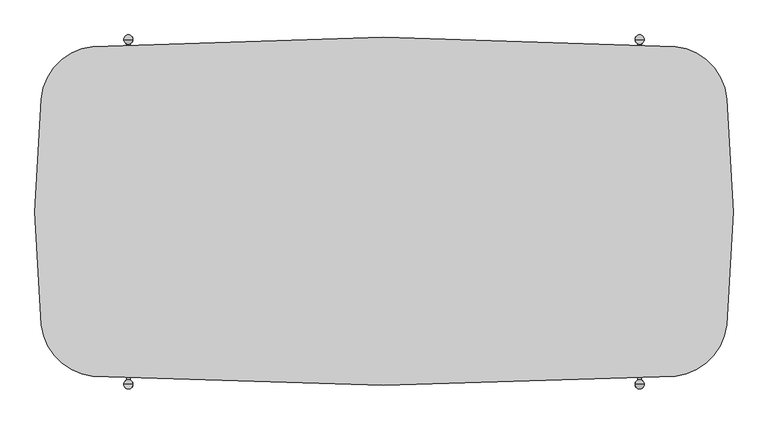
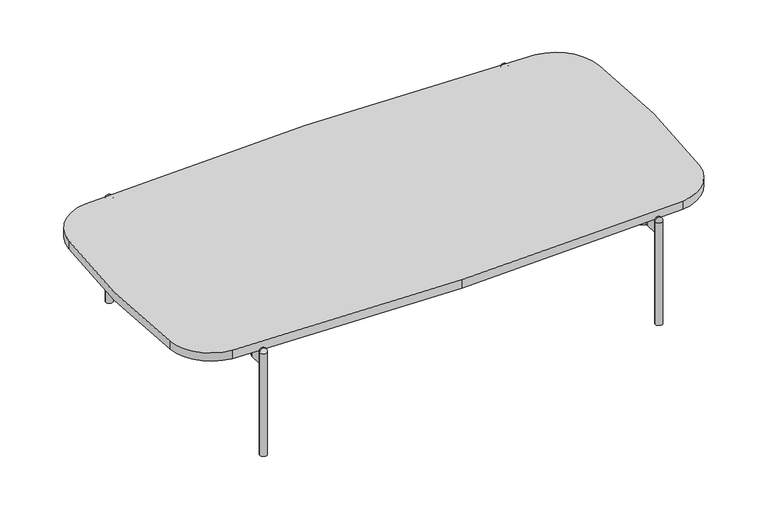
"""IFC4 building model written with IfcOpenShell, lengths in millimetres: furniture geometry, RECTANGULAR TABLE_H=25 : EI125B051260A_M."""

import ifcopenshell
import ifcopenshell.guid

model = None  # the IFC model being written
_history = None  # IfcOwnerHistory: only IFC2X3 demands one
_inside = {}  # id of a spatial element -> (the spatial element, [elements in it])
_under = {}  # id of a project, library or spatial element -> (it, [spatial elements below it])
_declared = {}  # id of a project -> (the project, [libraries it declares])
_typed = {}  # id of a type object -> (the type object, [elements of that type])
_made_of = {}  # id of a material, layer set ... -> (it, [elements and type objects made of it])


def new_model(schema):
    """Start an empty IFC model of exactly this schema.

    Asked for "IFC4X3", IfcOpenShell would pick the latest addendum, in which some entities
    have other attributes; the version numbers below select the first issue.
    IFC2X3 requires an IfcOwnerHistory on every rooted entity: one is made here for all.
    """
    global model, _history
    if schema == "IFC4X3":
        model = ifcopenshell.file(schema_version=(4, 3, 0, 0))
    else:
        model = ifcopenshell.file(schema=schema)
    _inside.clear()
    _under.clear()
    _declared.clear()
    _typed.clear()
    _made_of.clear()
    _history = None
    if model.schema == "IFC2X3":
        org = make("IfcOrganization", Name="unknown")
        user = make(
            "IfcPersonAndOrganization",
            ThePerson=make("IfcPerson", FamilyName="unknown"),
            TheOrganization=org,
        )
        app = make(
            "IfcApplication",
            ApplicationDeveloper=org,
            Version="unknown",
            ApplicationFullName="unknown",
            ApplicationIdentifier="unknown",
        )
        _history = make(
            "IfcOwnerHistory",
            OwningUser=user,
            OwningApplication=app,
            ChangeAction="ADDED",
            CreationDate=0,
        )
    return model


def make(cls, **values):
    """One entity of the class cls with the attributes given. An attribute that is None is left unset."""
    return model.create_entity(
        cls, **{name: value for name, value in values.items() if value is not None}
    )


def rooted(cls, **values):
    """An entity with a GlobalId (a new one), such as an element, a storey or a relation."""
    return make(cls, GlobalId=ifcopenshell.guid.new(), OwnerHistory=_history, **values)


def si_unit(unit_type, name, prefix=None):
    """IfcSIUnit, for example si_unit("LENGTHUNIT", "METRE", prefix="MILLI")."""
    return make("IfcSIUnit", UnitType=unit_type, Prefix=prefix, Name=name)


def assignment(units):
    """IfcUnitAssignment: the units of a project."""
    return None if units is None else make("IfcUnitAssignment", Units=units)


def point(xyz):
    """IfcCartesianPoint."""
    return None if xyz is None else make("IfcCartesianPoint", Coordinates=xyz)


def direction(xyz):
    """IfcDirection."""
    return None if xyz is None else make("IfcDirection", DirectionRatios=xyz)


def frame(location, z_axis=None, x_axis=None):
    """IfcAxis2Placement3D, a coordinate frame: its origin and axes. An axis left out is left unset."""
    return make(
        "IfcAxis2Placement3D",
        Location=point(location),
        Axis=direction(z_axis),
        RefDirection=direction(x_axis),
    )


def frame_2d(location, x_axis=None):
    """IfcAxis2Placement2D, a coordinate frame in the plane: its origin and x axis."""
    return make(
        "IfcAxis2Placement2D", Location=point(location), RefDirection=direction(x_axis)
    )


def origin():
    """The frame at (0, 0, 0) with its axes left unset."""
    return frame((0.0, 0.0, 0.0))


def origin_with_axes():
    """The frame at (0, 0, 0) with the z axis (0, 0, 1) and the x axis (1, 0, 0) written out."""
    return frame((0.0, 0.0, 0.0), z_axis=(0.0, 0.0, 1.0), x_axis=(1.0, 0.0, 0.0))


def origin_2d():
    """The frame at (0, 0) in the plane with its x axis left unset."""
    return frame_2d((0.0, 0.0))


def place(relative_to, where):
    """IfcLocalPlacement: puts the frame where relative to a parent placement (None: the world)."""
    return make(
        "IfcLocalPlacement", PlacementRelTo=relative_to, RelativePlacement=where
    )


def context(
    kind, dimensions, precision=None, world=None, true_north=None, identifier=None
):
    """IfcGeometricRepresentationContext, for example the 3D "Model" context."""
    return make(
        "IfcGeometricRepresentationContext",
        ContextIdentifier=identifier,
        ContextType=kind,
        CoordinateSpaceDimension=dimensions,
        Precision=precision,
        WorldCoordinateSystem=world,
        TrueNorth=true_north,
    )


def project(units=None, contexts=None):
    """IfcProject with its units and contexts."""
    return rooted(
        "IfcProject",
        Name="project",
        RepresentationContexts=contexts,
        UnitsInContext=assignment(units),
    )


def spatial(cls, under=None, at=None, **own):
    """A site, building, storey or space (cls), placed at a placement, below another one or the project."""
    s = rooted(cls, ObjectPlacement=at, **own)
    if under is not None:
        _under.setdefault(under.id(), (under, []))[1].append(s)
    return s


def polyline(points):
    """IfcPolyline through the points."""
    return make("IfcPolyline", Points=[point(p) for p in points])


def circle_curve(where, radius):
    """IfcCircle in the frame where."""
    return make("IfcCircle", Position=where, Radius=radius)


def ellipse_curve(where, semi_axis1, semi_axis2):
    """IfcEllipse in the frame where."""
    return make(
        "IfcEllipse", Position=where, SemiAxis1=semi_axis1, SemiAxis2=semi_axis2
    )


def trimmed(basis, trim1, trim2, sense, master):
    """IfcTrimmedCurve: the piece of a basis curve between two trims."""
    return make(
        "IfcTrimmedCurve",
        BasisCurve=basis,
        Trim1=trim1,
        Trim2=trim2,
        SenseAgreement=sense,
        MasterRepresentation=master,
    )


def segment(curve, same_sense, transition):
    """IfcCompositeCurveSegment."""
    return make(
        "IfcCompositeCurveSegment",
        Transition=transition,
        SameSense=same_sense,
        ParentCurve=curve,
    )


def composite_curve(segments, self_intersect=None):
    """IfcCompositeCurve: segments joined end to end."""
    return make("IfcCompositeCurve", Segments=segments, SelfIntersect=self_intersect)


def outline(outer, holes=None, kind="AREA"):
    """IfcArbitraryClosedProfileDef: a profile drawn as a closed curve; with holes, ...WithVoids."""
    if holes is None:
        return make("IfcArbitraryClosedProfileDef", ProfileType=kind, OuterCurve=outer)
    return make(
        "IfcArbitraryProfileDefWithVoids",
        ProfileType=kind,
        OuterCurve=outer,
        InnerCurves=holes,
    )


def extrude(swept, where, along, depth):
    """IfcExtrudedAreaSolid: the profile swept, set in the frame where, extruded along a direction by depth."""
    return make(
        "IfcExtrudedAreaSolid",
        SweptArea=swept,
        Position=where,
        ExtrudedDirection=direction(along),
        Depth=depth,
    )


def shape(context_of_items, identifier, shape_type, items):
    """IfcShapeRepresentation: the items that make up one representation, for example the "Body"."""
    return make(
        "IfcShapeRepresentation",
        ContextOfItems=context_of_items,
        RepresentationIdentifier=identifier,
        RepresentationType=shape_type,
        Items=items,
    )


def source(mapping_origin, context_of_items, identifier, shape_type, items):
    """IfcRepresentationMap: a shape defined once, which mapped items show again and again."""
    return make(
        "IfcRepresentationMap",
        MappingOrigin=mapping_origin,
        MappedRepresentation=shape(context_of_items, identifier, shape_type, items),
    )


def transform(
    local_origin,
    x_axis=None,
    y_axis=None,
    z_axis=None,
    scale=None,
    scale2=None,
    scale3=None,
    uniform=True,
):
    """IfcCartesianTransformationOperator3D, or its non-uniform kind. x_axis, y_axis, z_axis: its Axis1, 2, 3."""
    if uniform:
        return make(
            "IfcCartesianTransformationOperator3D",
            Axis1=direction(x_axis),
            Axis2=direction(y_axis),
            LocalOrigin=point(local_origin),
            Scale=scale,
            Axis3=direction(z_axis),
        )
    return make(
        "IfcCartesianTransformationOperator3DnonUniform",
        Axis1=direction(x_axis),
        Axis2=direction(y_axis),
        LocalOrigin=point(local_origin),
        Scale=scale,
        Axis3=direction(z_axis),
        Scale2=scale2,
        Scale3=scale3,
    )


def mapped(mapping_source, mapping_target):
    """IfcMappedItem: shows the shape of a source again, moved by a transform."""
    return make(
        "IfcMappedItem", MappingSource=mapping_source, MappingTarget=mapping_target
    )


def made_of(thing, what):
    """Note that an element or type object is made of a material, layer set ...; save() writes the relation."""
    if what is not None:
        _made_of.setdefault(what.id(), (what, []))[1].append(thing)
    return thing


def element(
    cls,
    number,
    at=None,
    inside=None,
    cuts=None,
    type_object=None,
    material=None,
    context=None,
    identifier="Body",
    shape_type=None,
    held_by="IfcProductDefinitionShape",
    body=None,
    shapes=None,
    **own,
):
    """One element of the class cls, such as IfcWall. Its Tag is "e" and its number.

    at: its placement. inside: the storey or other place that contains it. cuts: it is an
    opening in that element (IfcRelVoidsElement). A single representation is given by context,
    identifier, shape_type and body (its items); several are given by shapes. held_by: the class
    of the entity that holds the representations. save() writes the other relations.
    """
    e = rooted(cls, Tag="e%d" % number, ObjectPlacement=at, **own)
    if body is not None:
        shapes = [shape(context, identifier, shape_type, body)]
    if shapes is not None:
        e.Representation = make(held_by, Representations=shapes)
    if inside is not None:
        _inside.setdefault(inside.id(), (inside, []))[1].append(e)
    if cuts is not None:
        rooted(
            "IfcRelVoidsElement", RelatingBuildingElement=cuts, RelatedOpeningElement=e
        )
    if type_object is not None:
        _typed.setdefault(type_object.id(), (type_object, []))[1].append(e)
    return made_of(e, material)


def aggregate(whole, parts):
    """IfcRelAggregates: a whole, such as a stair, and the parts it consists of."""
    return rooted("IfcRelAggregates", RelatingObject=whole, RelatedObjects=parts)


def save(model, path):
    """Write the relations noted so far, then the file.

    IfcRelAggregates (storeys below a building ...), IfcRelContainedInSpatialStructure (elements
    in a storey), IfcRelDefinesByType, IfcRelAssociatesMaterial and IfcRelDeclares: one each for
    every whole, place, type object, material and project.
    """
    for whole, parts in _under.values():
        aggregate(whole, parts)
    for where, things in _inside.values():
        rooted(
            "IfcRelContainedInSpatialStructure",
            RelatedElements=things,
            RelatingStructure=where,
        )
    for kind, things in _typed.values():
        rooted("IfcRelDefinesByType", RelatedObjects=things, RelatingType=kind)
    for what, things in _made_of.values():
        rooted("IfcRelAssociatesMaterial", RelatedObjects=things, RelatingMaterial=what)
    for by, libraries in _declared.values():
        rooted("IfcRelDeclares", RelatingContext=by, RelatedDefinitions=libraries)
    model.write(path)


def plane_surface(at):
    """IfcPlane: the flat surface through the origin of the frame at, square to its z axis."""
    return make("IfcPlane", Position=at)


def revolved_surface(curve, axis_point, axis_direction):
    """IfcSurfaceOfRevolution: the curve turned about the line through axis_point along axis_direction."""
    return make(
        "IfcSurfaceOfRevolution",
        SweptCurve=make("IfcArbitraryOpenProfileDef", ProfileType="CURVE", Curve=curve),
        AxisPosition=make("IfcAxis1Placement", Location=point(axis_point), Axis=direction(axis_direction)),
    )


def advanced_brep(points, edges, surfaces, faces):
    """IfcAdvancedBrep: a solid bounded by faces that lie on surfaces and meet in shared edges.

    An edge is (start, end): straight between two places in points (the first is 0);
    or (start, end, curve); or (start, end, curve, False) where it runs against its curve.
    A face is (place in surfaces, loops), or (place, loops, False) where it looks against
    its surface's normal. A loop lists edges by number (the first is 1), with a minus sign
    where the edge is run from its end to its start. The first loop is the outer one.
    """
    corners = [point(p) for p in points]
    vertices = [make("IfcVertexPoint", VertexGeometry=c) for c in corners]
    made = []
    for start, end, *more in edges:
        made.append(
            make(
                "IfcEdgeCurve",
                EdgeStart=vertices[start],
                EdgeEnd=vertices[end],
                EdgeGeometry=more[0] if more else make("IfcPolyline", Points=[corners[start], corners[end]]),
                SameSense=more[1] if len(more) > 1 else True,
            )
        )
    hull = []
    for where, loops, *sense in faces:
        bounds = []
        for j, loop in enumerate(loops):
            ring = [make("IfcOrientedEdge", EdgeElement=made[abs(k) - 1], Orientation=k > 0) for k in loop]
            bounds.append(
                make(
                    "IfcFaceOuterBound" if j == 0 else "IfcFaceBound",
                    Bound=make("IfcEdgeLoop", EdgeList=ring),
                    Orientation=True,
                )
            )
        hull.append(make("IfcAdvancedFace", Bounds=bounds, FaceSurface=surfaces[where], SameSense=sense[0] if sense else True))
    return make("IfcAdvancedBrep", Outer=make("IfcClosedShell", CfsFaces=hull))


def furniture_3ea3abeb(model_context):
    return source(origin(), model_context, "Body", "SolidModel", [
        extrude(outline(composite_curve([segment(trimmed(circle_curve(frame_2d((1.4867894, -7551.9223408)), 7852.9472692), [point((-501.2282373, 284.9174824))], [point((0.0, 301.0247877))], False, "CARTESIAN"), True, "CONTINUOUS"), segment(trimmed(circle_curve(frame_2d((-1.4864107, -7551.9341948)), 7852.9591231), [point((0.0, 301.0247877))], [point((501.2289946, 284.9174824))], False, "CARTESIAN"), True, "CONTINUOUS"), segment(trimmed(circle_curve(frame_2d((490.8143975, 186.2977874)), 99.1680799), [point((501.2289946, 284.9174824))], [point((589.6485198, 194.4294758))], False, "CARTESIAN"), True, "CONTINUOUS"), segment(trimmed(circle_curve(frame_2d((-1100.6810617, 0.8303345)), 1701.3802401), [point((589.6485198, 194.4294758))], [point((589.458748, -194.4185971))], False, "CARTESIAN"), True, "CONTINUOUS"), segment(trimmed(circle_curve(frame_2d((490.8143975, -184.2401787)), 99.1680799), [point((589.458748, -194.4185971))], [point((501.2289947, -282.8598737))], False, "CARTESIAN"), True, "CONTINUOUS"), segment(trimmed(circle_curve(frame_2d((-1.4864107, 7553.991804)), 7852.9591237), [point((501.2289947, -282.8598737))], [point((0.0003787, -298.9671789))], False, "CARTESIAN"), True, "CONTINUOUS"), segment(trimmed(circle_curve(frame_2d((1.4871681, 7553.9918036)), 7852.9591232), [point((0.0003787, -298.9671789))], [point((-501.2282372, -282.8598737))], False, "CARTESIAN"), True, "CONTINUOUS"), segment(trimmed(circle_curve(frame_2d((-490.8136401, -184.2401787)), 99.1680799), [point((-501.2282372, -282.8598737))], [point((-589.4579906, -194.4185972))], False, "CARTESIAN"), True, "CONTINUOUS"), segment(trimmed(circle_curve(frame_2d((1100.6818191, 0.8303345)), 1701.3802401), [point((-589.4579906, -194.4185972))], [point((-589.6477624, 194.4294758))], False, "CARTESIAN"), True, "CONTINUOUS"), segment(trimmed(circle_curve(frame_2d((-490.8136401, 186.2977874)), 99.1680799), [point((-589.6477624, 194.4294758))], [point((-501.2282373, 284.9174824))], False, "CARTESIAN"), True, "CONTINUOUS")], self_intersect=False)), frame((0.0, 0.0, 237.6939464), z_axis=(0.0, 0.0, 1.0), x_axis=(1.0, 0.0, 0.0)), (0.0, 0.0, 1.0), 19.0),
        advanced_brep(
        [(-440.0, 297.05, 249.1666667), (-432.0, 297.05, 241.1666667), (-448.0, 297.05, 241.1666667), (-440.0, 297.05, 241.1666667)],
        [
            (0, 1, circle_curve(frame((-440.0, 297.05, 241.1666667), z_axis=(0.0, 1.0, 0.0), x_axis=(1.0, 0.0, 0.0)), 8.0)),
            (1, 2, circle_curve(frame((-440.0, 297.05, 241.1666667), z_axis=(0.0, 0.0, 1.0), x_axis=(1.0, 0.0, 0.0)), 8.0)),
            (2, 0, circle_curve(frame((-440.0, 297.05, 241.1666667), z_axis=(0.0, 1.0, 0.0), x_axis=(-1.0, 0.0, 0.0)), 8.0)),
            (2, 1, circle_curve(frame((-440.0, 297.05, 241.1666667), z_axis=(0.0, 0.0, 1.0), x_axis=(1.0, 0.0, 0.0)), 8.0)),
            (1, 3),
            (3, 2),
        ],
        [
            revolved_surface(trimmed(ellipse_curve(frame((-440.0, 297.05, 241.1666667), z_axis=(0.0, -1.0, 0.0), x_axis=(1.0, 0.0, 0.0)), 8.0, 8.0), [point((-432.0, 297.05, 241.1666667))], [point((-440.0, 297.05, 249.1666667))], True, "CARTESIAN"), (-440.0, 297.05, 2438.4), (0.0, 0.0, 1.0)),
            plane_surface(frame((-440.0, 297.05, 241.1666667), z_axis=(0.0, 0.0, -1.0), x_axis=(1.0, 0.0, 0.0))),
        ],
        [
            (0, [[1, 2, 3]]),
            (0, [[-3, 4, -1]]),
            (1, [[-2, 5, 6]]),
            (1, [[-4, -6, -5]]),
        ],
    ),
        advanced_brep(
        [(-448.0, -297.05, 241.1666667), (-432.0, -297.05, 241.1666667), (-440.0, -297.05, 249.1666667), (-440.0, -297.05, 241.1666667)],
        [
            (0, 1, circle_curve(frame((-440.0, -297.05, 241.1666667), z_axis=(0.0, 0.0, 1.0), x_axis=(1.0, 0.0, 0.0)), 8.0)),
            (1, 2, circle_curve(frame((-440.0, -297.05, 241.1666667), z_axis=(0.0, -1.0, 0.0), x_axis=(1.0, 0.0, 0.0)), 8.0)),
            (2, 0, circle_curve(frame((-440.0, -297.05, 241.1666667), z_axis=(0.0, -1.0, 0.0), x_axis=(-1.0, 0.0, 0.0)), 8.0)),
            (1, 0, circle_curve(frame((-440.0, -297.05, 241.1666667), z_axis=(0.0, 0.0, 1.0), x_axis=(1.0, 0.0, 0.0)), 8.0)),
            (3, 1),
            (0, 3),
        ],
        [
            revolved_surface(trimmed(ellipse_curve(frame((-440.0, -297.05, 241.1666667), z_axis=(0.0, 1.0, 0.0), x_axis=(1.0, 0.0, 0.0)), 8.0, 8.0), [point((-440.0, -297.05, 249.1666667))], [point((-432.0, -297.05, 241.1666667))], True, "CARTESIAN"), (-440.0, -297.05, 2438.4), (0.0, 0.0, -1.0)),
            plane_surface(frame((-440.0, -297.05, 241.1666667), z_axis=(0.0, 0.0, -1.0), x_axis=(1.0, 0.0, 0.0))),
        ],
        [
            (0, [[1, 2, 3]]),
            (0, [[4, -3, -2]]),
            (1, [[5, -1, 6]]),
            (1, [[-6, -4, -5]]),
        ],
    ),
        advanced_brep(
        [(448.0, 297.05, 241.1666667), (432.0, 297.05, 241.1666667), (440.0, 297.05, 249.1666667), (440.0, 297.05, 241.1666667)],
        [
            (0, 1, circle_curve(frame((440.0, 297.05, 241.1666667), z_axis=(0.0, 0.0, 1.0), x_axis=(-1.0, 0.0, 0.0)), 8.0)),
            (1, 2, circle_curve(frame((440.0, 297.05, 241.1666667), z_axis=(0.0, 1.0, 0.0), x_axis=(-1.0, 0.0, 0.0)), 8.0)),
            (2, 0, circle_curve(frame((440.0, 297.05, 241.1666667), z_axis=(0.0, 1.0, 0.0), x_axis=(1.0, 0.0, 0.0)), 8.0)),
            (1, 0, circle_curve(frame((440.0, 297.05, 241.1666667), z_axis=(0.0, 0.0, 1.0), x_axis=(-1.0, 0.0, 0.0)), 8.0)),
            (3, 1),
            (0, 3),
        ],
        [
            revolved_surface(trimmed(ellipse_curve(frame((440.0, 297.05, 241.1666667), z_axis=(0.0, -1.0, 0.0), x_axis=(-1.0, 0.0, 0.0)), 8.0, 8.0), [point((440.0, 297.05, 249.1666667))], [point((432.0, 297.05, 241.1666667))], True, "CARTESIAN"), (440.0, 297.05, 2438.4), (0.0, 0.0, -1.0)),
            plane_surface(frame((440.0, 297.05, 241.1666667), z_axis=(0.0, 0.0, -1.0), x_axis=(-1.0, 0.0, 0.0))),
        ],
        [
            (0, [[1, 2, 3]]),
            (0, [[4, -3, -2]]),
            (1, [[5, -1, 6]]),
            (1, [[-6, -4, -5]]),
        ],
    ),
        advanced_brep(
        [(440.0, -297.05, 249.1666667), (432.0, -297.05, 241.1666667), (448.0, -297.05, 241.1666667), (440.0, -297.05, 241.1666667)],
        [
            (0, 1, circle_curve(frame((440.0, -297.05, 241.1666667), z_axis=(0.0, -1.0, 0.0), x_axis=(-1.0, 0.0, 0.0)), 8.0)),
            (1, 2, circle_curve(frame((440.0, -297.05, 241.1666667), z_axis=(0.0, 0.0, 1.0), x_axis=(-1.0, 0.0, 0.0)), 8.0)),
            (2, 0, circle_curve(frame((440.0, -297.05, 241.1666667), z_axis=(0.0, -1.0, 0.0), x_axis=(1.0, 0.0, 0.0)), 8.0)),
            (2, 1, circle_curve(frame((440.0, -297.05, 241.1666667), z_axis=(0.0, 0.0, 1.0), x_axis=(-1.0, 0.0, 0.0)), 8.0)),
            (1, 3),
            (3, 2),
        ],
        [
            revolved_surface(trimmed(ellipse_curve(frame((440.0, -297.05, 241.1666667), z_axis=(0.0, 1.0, 0.0), x_axis=(-1.0, 0.0, 0.0)), 8.0, 8.0), [point((432.0, -297.05, 241.1666667))], [point((440.0, -297.05, 249.1666667))], True, "CARTESIAN"), (440.0, -297.05, 2438.4), (0.0, 0.0, 1.0)),
            plane_surface(frame((440.0, -297.05, 241.1666667), z_axis=(0.0, 0.0, -1.0), x_axis=(-1.0, 0.0, 0.0))),
        ],
        [
            (0, [[1, 2, 3]]),
            (0, [[-3, 4, -1]]),
            (1, [[-2, 5, 6]]),
            (1, [[-4, -6, -5]]),
        ],
    ),
        extrude(outline(composite_curve([segment(polyline([(-6.9637785, 7.7823268), (-9.9637785, 2.5861743), (-437.9764804, 249.699423)]), True, "CONTINUOUS"), segment(trimmed(circle_curve(frame_2d((-432.9764804, 258.359677)), 10.0), [point((-437.9764804, 249.699423))], [point((-442.9764804, 258.359677))], False, "CARTESIAN"), True, "CONTINUOUS"), segment(polyline([(-442.9764804, 258.359677), (-442.9764804, 289.6243307)]), True, "CONTINUOUS"), segment(trimmed(circle_curve(frame_2d((-440.0, 297.05)), 8.0), [point((-442.9764804, 289.6243307))], [point((-436.9764804, 289.6433591))], True, "CARTESIAN"), True, "CONTINUOUS"), segment(polyline([(-436.9764804, 289.6433591), (-436.9764804, 258.359677)]), True, "CONTINUOUS"), segment(trimmed(circle_curve(frame_2d((-432.9764804, 258.359677)), 4.0), [point((-436.9764804, 258.359677))], [point((-434.9764804, 254.8955754))], True, "CARTESIAN"), True, "CONTINUOUS"), segment(polyline([(-434.9764804, 254.8955754), (-6.9637785, 7.7823268)]), True, "CONTINUOUS")], self_intersect=False)), frame((0.0, 0.0, 207.6939464), z_axis=(0.0, 0.0, 1.0), x_axis=(1.0, 0.0, 0.0)), (0.0, 0.0, 1.0), 30.0),
        extrude(outline(composite_curve([segment(polyline([(6.9637785, 7.7823268), (434.9764804, 254.8955754)]), True, "CONTINUOUS"), segment(trimmed(circle_curve(frame_2d((432.9764804, 258.359677)), 4.0), [point((434.9764804, 254.8955754))], [point((436.9764804, 258.359677))], True, "CARTESIAN"), True, "CONTINUOUS"), segment(polyline([(436.9764804, 258.359677), (436.9764804, 289.6433591)]), True, "CONTINUOUS"), segment(trimmed(circle_curve(frame_2d((440.0, 297.05)), 8.0), [point((436.9764804, 289.6433591))], [point((442.9764804, 289.6243307))], True, "CARTESIAN"), True, "CONTINUOUS"), segment(polyline([(442.9764804, 289.6243307), (442.9764804, 258.359677)]), True, "CONTINUOUS"), segment(trimmed(circle_curve(frame_2d((432.9764804, 258.359677)), 10.0), [point((442.9764804, 258.359677))], [point((437.9764804, 249.699423))], False, "CARTESIAN"), True, "CONTINUOUS"), segment(polyline([(437.9764804, 249.699423), (9.9637785, 2.5861743), (6.9637785, 7.7823268)]), True, "CONTINUOUS")], self_intersect=False)), frame((0.0, 0.0, 207.6939464), z_axis=(0.0, 0.0, 1.0), x_axis=(1.0, 0.0, 0.0)), (0.0, 0.0, 1.0), 30.0),
        extrude(outline(composite_curve([segment(polyline([(-6.9637785, -7.7823268), (-434.9764804, -254.8955754)]), True, "CONTINUOUS"), segment(trimmed(circle_curve(frame_2d((-432.9764804, -258.359677)), 4.0), [point((-434.9764804, -254.8955754))], [point((-436.9764804, -258.359677))], True, "CARTESIAN"), True, "CONTINUOUS"), segment(polyline([(-436.9764804, -258.359677), (-436.9764804, -289.6433591)]), True, "CONTINUOUS"), segment(trimmed(circle_curve(frame_2d((-440.0, -297.05)), 8.0), [point((-436.9764804, -289.6433591))], [point((-442.9764804, -289.6243307))], True, "CARTESIAN"), True, "CONTINUOUS"), segment(polyline([(-442.9764804, -289.6243307), (-442.9764804, -258.359677)]), True, "CONTINUOUS"), segment(trimmed(circle_curve(frame_2d((-432.9764804, -258.359677)), 10.0), [point((-442.9764804, -258.359677))], [point((-437.9764804, -249.699423))], False, "CARTESIAN"), True, "CONTINUOUS"), segment(polyline([(-437.9764804, -249.699423), (-9.9637785, -2.5861743), (-6.9637785, -7.7823268)]), True, "CONTINUOUS")], self_intersect=False)), frame((0.0, 0.0, 207.6939464), z_axis=(0.0, 0.0, 1.0), x_axis=(1.0, 0.0, 0.0)), (0.0, 0.0, 1.0), 30.0),
        extrude(outline(composite_curve([segment(polyline([(6.9637785, -7.7823268), (9.9637785, -2.5861743), (437.9764804, -249.699423)]), True, "CONTINUOUS"), segment(trimmed(circle_curve(frame_2d((432.9764804, -258.359677)), 10.0), [point((437.9764804, -249.699423))], [point((442.9764804, -258.359677))], False, "CARTESIAN"), True, "CONTINUOUS"), segment(polyline([(442.9764804, -258.359677), (442.9764804, -289.6243307)]), True, "CONTINUOUS"), segment(trimmed(circle_curve(frame_2d((440.0, -297.05)), 8.0), [point((442.9764804, -289.6243307))], [point((436.9764804, -289.6433591))], True, "CARTESIAN"), True, "CONTINUOUS"), segment(polyline([(436.9764804, -289.6433591), (436.9764804, -258.359677)]), True, "CONTINUOUS"), segment(trimmed(circle_curve(frame_2d((432.9764804, -258.359677)), 4.0), [point((436.9764804, -258.359677))], [point((434.9764804, -254.8955754))], True, "CARTESIAN"), True, "CONTINUOUS"), segment(polyline([(434.9764804, -254.8955754), (6.9637785, -7.7823268)]), True, "CONTINUOUS")], self_intersect=False)), frame((0.0, 0.0, 207.6939464), z_axis=(0.0, 0.0, 1.0), x_axis=(1.0, 0.0, 0.0)), (0.0, 0.0, 1.0), 30.0),
        extrude(outline(composite_curve([segment(trimmed(circle_curve(origin_2d(), 23.0), [point((-23.0, 0.0))], [point((23.0, 0.0))], False, "CARTESIAN"), True, "CONTINUOUS"), segment(trimmed(circle_curve(origin_2d(), 23.0), [point((23.0, 0.0))], [point((-23.0, 0.0))], False, "CARTESIAN"), True, "CONTINUOUS")], self_intersect=False)), frame((0.0, 0.0, 207.6939464), z_axis=(0.0, 0.0, 1.0), x_axis=(1.0, 0.0, 0.0)), (0.0, 0.0, 1.0), 30.0),
        extrude(outline(composite_curve([segment(trimmed(circle_curve(frame_2d((440.0, 297.05)), 8.0), [point((432.0, 297.05))], [point((448.0, 297.05))], False, "CARTESIAN"), True, "CONTINUOUS"), segment(trimmed(circle_curve(frame_2d((440.0, 297.05)), 8.0), [point((448.0, 297.05))], [point((432.0, 297.05))], False, "CARTESIAN"), True, "CONTINUOUS")], self_intersect=False)), origin_with_axes(), (0.0, 0.0, 1.0), 241.1666667),
        extrude(outline(composite_curve([segment(trimmed(circle_curve(frame_2d((440.0, -297.05)), 8.0), [point((432.0, -297.05))], [point((448.0, -297.05))], False, "CARTESIAN"), True, "CONTINUOUS"), segment(trimmed(circle_curve(frame_2d((440.0, -297.05)), 8.0), [point((448.0, -297.05))], [point((432.0, -297.05))], False, "CARTESIAN"), True, "CONTINUOUS")], self_intersect=False)), origin_with_axes(), (0.0, 0.0, 1.0), 241.1666667),
        extrude(outline(composite_curve([segment(trimmed(circle_curve(frame_2d((-440.0, 297.05)), 8.0), [point((-448.0, 297.05))], [point((-432.0, 297.05))], False, "CARTESIAN"), True, "CONTINUOUS"), segment(trimmed(circle_curve(frame_2d((-440.0, 297.05)), 8.0), [point((-432.0, 297.05))], [point((-448.0, 297.05))], False, "CARTESIAN"), True, "CONTINUOUS")], self_intersect=False)), origin_with_axes(), (0.0, 0.0, 1.0), 241.1666667),
        extrude(outline(composite_curve([segment(trimmed(circle_curve(frame_2d((-440.0, -297.05)), 8.0), [point((-448.0, -297.05))], [point((-432.0, -297.05))], False, "CARTESIAN"), True, "CONTINUOUS"), segment(trimmed(circle_curve(frame_2d((-440.0, -297.05)), 8.0), [point((-432.0, -297.05))], [point((-448.0, -297.05))], False, "CARTESIAN"), True, "CONTINUOUS")], self_intersect=False)), origin_with_axes(), (0.0, 0.0, 1.0), 241.1666667),
    ])


if __name__ == "__main__":
    model = new_model("IFC4")
    model_context = context("Model", 3, world=origin())
    ifc_project = project(units=[si_unit("LENGTHUNIT", "METRE", prefix="MILLI")], contexts=[model_context])
    site = spatial("IfcSite", under=ifc_project)
    building = spatial("IfcBuilding", under=site)
    placement = place(None, origin())
    furniture_shape = furniture_3ea3abeb(model_context)
    element("IfcFurniture", 1, ObjectType="RECTANGULAR TABLE_H=25 : EI125B051260A_M", at=placement, inside=building, context=model_context, shape_type="MappedRepresentation", body=[
        mapped(furniture_shape, transform((0.0, 0.0, 0.0), x_axis=(1.0, 0.0, 0.0), y_axis=(0.0, 1.0, 0.0), z_axis=(0.0, 0.0, 1.0))),
    ])
    save(model, "model.ifc")
